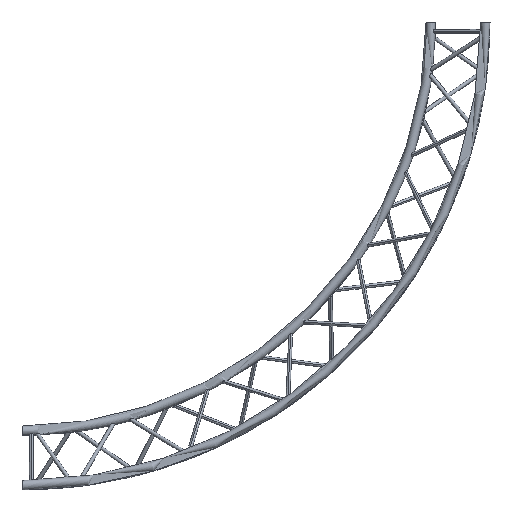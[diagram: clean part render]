
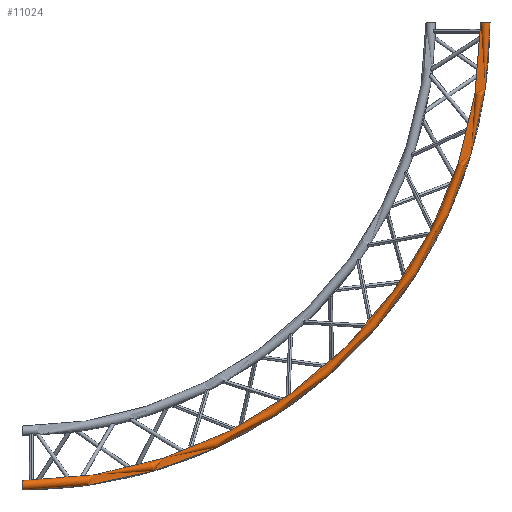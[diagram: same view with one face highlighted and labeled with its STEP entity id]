
A CAD part, front view. The second image highlights one B-rep face of the part: STEP entity #11024.
In plain terms, the highlighted toroidal (fillet/blend) face has major radius 2475 mm and minor radius 25 mm.
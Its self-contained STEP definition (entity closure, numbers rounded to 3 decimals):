
#5576 = CARTESIAN_POINT ( 'NONE',  ( 2500., -168.5, 0. ) ) ;
#5606 = CIRCLE ( 'NONE', #5734, 25. ) ;
#5607 = CARTESIAN_POINT ( 'NONE',  ( 2450., -168.5, 0. ) ) ;
#5730 = CIRCLE ( 'NONE', #5761, 2450. ) ;
#5731 = DIRECTION ( 'NONE',  ( 1., 0., 0. ) ) ;
#5732 = DIRECTION ( 'NONE',  ( 0., 0., 1. ) ) ;
#5733 = CARTESIAN_POINT ( 'NONE',  ( 2475., -168.5, 0. ) ) ;
#5734 = AXIS2_PLACEMENT_3D ( 'NONE', #5733, #5732, #5731 ) ;
#5753 = DIRECTION ( 'NONE',  ( 0., 0., -1. ) ) ;
#5754 = DIRECTION ( 'NONE',  ( 0., -1., 0. ) ) ;
#5755 = CARTESIAN_POINT ( 'NONE',  ( 0., -168.5, 0. ) ) ;
#5756 = AXIS2_PLACEMENT_3D ( 'NONE', #5755, #5754, #5753 ) ;
#5757 = CIRCLE ( 'NONE', #5756, 2500. ) ;
#5758 = DIRECTION ( 'NONE',  ( 0., 0., -1. ) ) ;
#5759 = DIRECTION ( 'NONE',  ( 0., -1., 0. ) ) ;
#5760 = CARTESIAN_POINT ( 'NONE',  ( 0., -168.5, 0. ) ) ;
#5761 = AXIS2_PLACEMENT_3D ( 'NONE', #5760, #5759, #5758 ) ;
#7011 = CARTESIAN_POINT ( 'NONE',  ( 0., -168.5, -2500. ) ) ;
#7018 = CARTESIAN_POINT ( 'NONE',  ( 0., -168.5, -2450. ) ) ;
#7025 = DIRECTION ( 'NONE',  ( 0., 0., -1. ) ) ;
#7026 = DIRECTION ( 'NONE',  ( 1., 0., 0. ) ) ;
#7027 = CARTESIAN_POINT ( 'NONE',  ( 0., -168.5, -2475. ) ) ;
#7028 = AXIS2_PLACEMENT_3D ( 'NONE', #7027, #7026, #7025 ) ;
#7029 = DIRECTION ( 'NONE',  ( 0., 0., -1. ) ) ;
#7030 = DIRECTION ( 'NONE',  ( 0., -1., 0. ) ) ;
#7031 = AXIS2_PLACEMENT_3D ( 'NONE', #7033, #7030, #7029 ) ;
#7032 = CIRCLE ( 'NONE', #7028, 25. ) ;
#7033 = CARTESIAN_POINT ( 'NONE',  ( 0., -168.5, 0. ) ) ;
#7034 = TOROIDAL_SURFACE ( 'NONE', #7031, 2475., 25. ) ;
#7035 = FACE_OUTER_BOUND ( 'NONE', #11007, .T. ) ;
#10872 = ORIENTED_EDGE ( 'NONE', *, *, #10881, .F. ) ;
#10874 = VERTEX_POINT ( 'NONE', #5576 ) ;
#10875 = ORIENTED_EDGE ( 'NONE', *, *, #10883, .F. ) ;
#10878 = VERTEX_POINT ( 'NONE', #5607 ) ;
#10881 = EDGE_CURVE ( 'NONE', #10878, #10874, #5606, .T. ) ;
#10883 = EDGE_CURVE ( 'NONE', #11017, #10878, #5730, .T. ) ;
#10886 = EDGE_CURVE ( 'NONE', #11020, #10874, #5757, .T. ) ;
#11007 = EDGE_LOOP ( 'NONE', ( #11029, #11026, #10872, #10875 ) ) ;
#11017 = VERTEX_POINT ( 'NONE', #7018 ) ;
#11020 = VERTEX_POINT ( 'NONE', #7011 ) ;
#11024 = ADVANCED_FACE ( 'NONE', ( #7035 ), #7034, .T. ) ;
#11025 = EDGE_CURVE ( 'NONE', #11017, #11020, #7032, .T. ) ;
#11026 = ORIENTED_EDGE ( 'NONE', *, *, #10886, .T. ) ;
#11029 = ORIENTED_EDGE ( 'NONE', *, *, #11025, .T. ) ;
